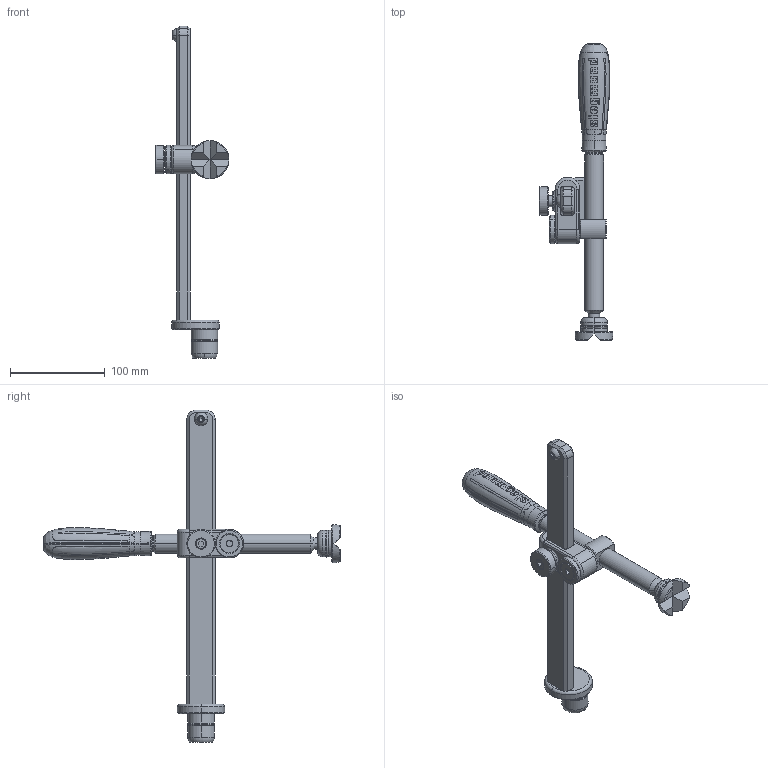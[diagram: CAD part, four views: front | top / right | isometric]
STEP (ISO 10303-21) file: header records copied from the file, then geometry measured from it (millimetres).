
FILE_DESCRIPTION(('STEP AP214'),'1');
FILE_NAME('C:/Users/E.Bergmann/Desktop/Formate Neu/280630.STP','2011-09-01T13:00:02',(' '),(' '),'Spatial InterOp 3D',' ',' ');
FILE_SCHEMA(('automotive_design'));
Length unit declared in the file: millimetre
Products named in the file (17): Zylinder; Flachkopfschraube ISO 7380 M8x12; Senkschraube ISO 10642 M10x25; Quader; Rotationskörper; Kugel; MariA9135y8j
Bounding box: 78 x 313 x 350 mm (x, y, z)
Volume: 369599.7 mm3; surface area: 117346.2 mm2
Topology: 17 solids, 17 shells, 3105 faces, 7886 edges, 4828 vertices
Faces by surface type: bspline 2516, plane 162, cylinder 137, torus 126, cone 92, sphere 38, revolution 26, extrusion 8
Entity records: 178940 total; most frequent: CARTESIAN_POINT 97119, ORIENTED_EDGE 15732, EDGE_CURVE 7866, DIRECTION 5808, B_SPLINE_CURVE_WITH_KNOTS 5049, VERTEX_POINT 4828, EDGE_LOOP 3194, STYLED_ITEM 3122
